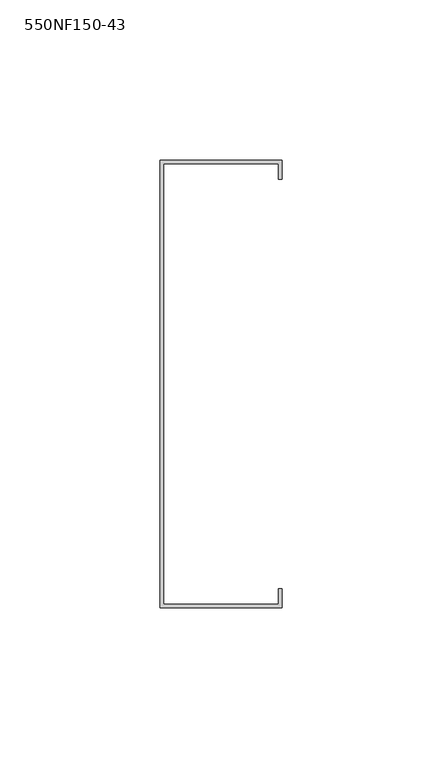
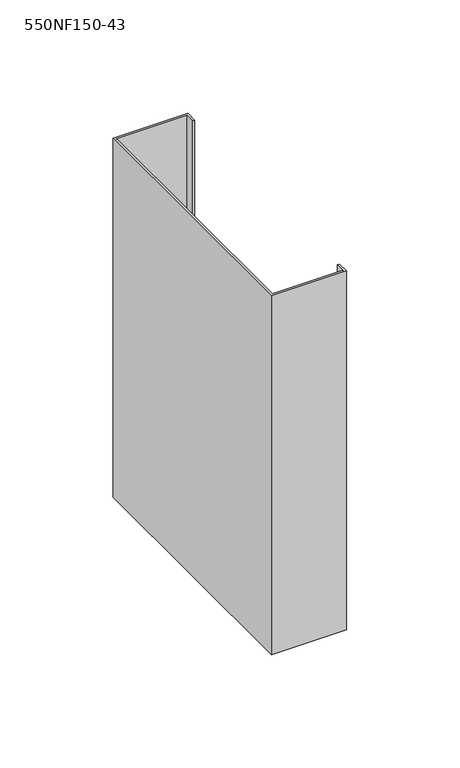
"""IFC4 building model written with IfcOpenShell, lengths in millimetres: column geometry, BIMSF-SSMA-S-Column : 550NF150-43."""

from ifc_helpers import new_model, si_unit, frame, origin, place, context, project, spatial, polyline, outline, extrude, source, transform, mapped, element, save


def column_550nf150_43_d98c00cb(model_context):
    return source(origin(), model_context, "Body", "SweptSolid", [
        extrude(outline(polyline([(-11.9977877, -80.5871249), (-11.9977877, 59.1128751), (26.1022123, 59.1128751), (26.1022123, 53.1879908), (24.952528, 53.1879908), (24.952528, 57.9631908), (-10.8481035, 57.9631908), (-10.8481035, -79.4374407), (24.952528, -79.4374407), (24.952528, -74.6622407), (26.1022123, -74.6622407), (26.1022123, -80.5871249), (-11.9977877, -80.5871249)])), frame((0.0, 0.0, 5525.3929688), z_axis=(0.0, 0.0, 1.0), x_axis=(1.0, 0.0, 0.0)), (0.0, 0.0, 1.0), 193.278125),
    ])


if __name__ == "__main__":
    model = new_model("IFC4")
    model_context = context("Model", 3, world=origin())
    ifc_project = project(units=[si_unit("LENGTHUNIT", "METRE", prefix="MILLI")], contexts=[model_context])
    site = spatial("IfcSite", under=ifc_project)
    building = spatial("IfcBuilding", under=site)
    placement = place(None, origin())
    column_550nf150_43_shape = column_550nf150_43_d98c00cb(model_context)
    element("IfcColumn", 1, ObjectType="BIMSF-SSMA-S-Column : 550NF150-43", at=placement, inside=building, context=model_context, shape_type="MappedRepresentation", body=[
        mapped(column_550nf150_43_shape, transform((0.0, 0.0, 0.0), x_axis=(1.0, 0.0, 0.0), y_axis=(0.0, 1.0, 0.0), z_axis=(0.0, 0.0, 1.0))),
    ])
    save(model, "model.ifc")
